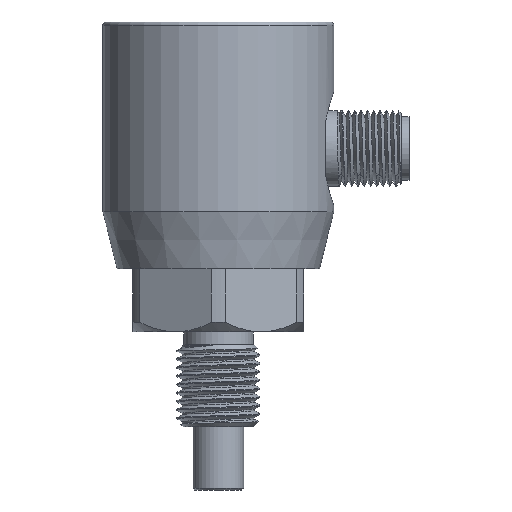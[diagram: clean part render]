
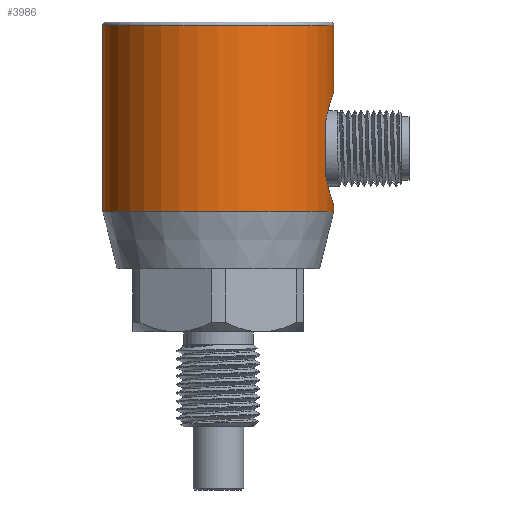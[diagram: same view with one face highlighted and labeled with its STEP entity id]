
A CAD part, left-side view. The second image highlights one B-rep face of the part: STEP entity #3986.
In plain terms, the highlighted cylindrical face has radius 18.25 mm (diameter 36.5 mm), a full revolution.
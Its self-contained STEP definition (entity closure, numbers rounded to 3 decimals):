
#43=LINE('',#18256,#1574);
#44=LINE('',#18260,#1575);
#1574=VECTOR('',#13510,1.);
#1575=VECTOR('',#13513,1.);
#3779=FACE_BOUND('',#5354,.T.);
#3780=FACE_BOUND('',#5355,.T.);
#3781=FACE_BOUND('',#5356,.T.);
#3986=ADVANCED_FACE('',(#3779,#3780,#3781),#4654,.T.);
#4654=CYLINDRICAL_SURFACE('',#12686,18.25);
#5354=EDGE_LOOP('',(#6350,#6351,#6352,#6353));
#5355=EDGE_LOOP('',(#6354));
#5356=EDGE_LOOP('',(#6355));
#6146=CIRCLE('',#12684,18.25);
#6147=CIRCLE('',#12685,18.25);
#6350=ORIENTED_EDGE('',*,*,#10921,.F.);
#6351=ORIENTED_EDGE('',*,*,#10918,.F.);
#6352=ORIENTED_EDGE('',*,*,#10915,.F.);
#6353=ORIENTED_EDGE('',*,*,#10920,.F.);
#6354=ORIENTED_EDGE('',*,*,#10922,.T.);
#6355=ORIENTED_EDGE('',*,*,#10923,.F.);
#9733=VERTEX_POINT('',#18220);
#9734=VERTEX_POINT('',#18221);
#9737=VERTEX_POINT('',#18257);
#9738=VERTEX_POINT('',#18259);
#9739=VERTEX_POINT('',#18273);
#9740=VERTEX_POINT('',#18275);
#10915=EDGE_CURVE('',#9734,#9733,#12626,.T.);
#10918=EDGE_CURVE('',#9733,#9737,#43,.T.);
#10920=EDGE_CURVE('',#9738,#9734,#44,.T.);
#10921=EDGE_CURVE('',#9737,#9738,#12628,.T.);
#10922=EDGE_CURVE('',#9739,#9739,#6146,.T.);
#10923=EDGE_CURVE('',#9740,#9740,#6147,.T.);
#12626=B_SPLINE_CURVE_WITH_KNOTS('',3,(#18222,#18223,#18224,#18225,#18226,
#18227,#18228,#18229,#18230,#18231),.UNSPECIFIED.,.F.,.F.,(4,2,2,2,4),(0.,
0.25,0.5,0.75,1.),.UNSPECIFIED.);
#12628=B_SPLINE_CURVE_WITH_KNOTS('',3,(#18262,#18263,#18264,#18265,#18266,
#18267,#18268,#18269,#18270,#18271),.UNSPECIFIED.,.F.,.F.,(4,2,2,2,4),(0.,
0.25,0.5,0.75,1.),.UNSPECIFIED.);
#12684=AXIS2_PLACEMENT_3D('',#18272,#13516,#13517);
#12685=AXIS2_PLACEMENT_3D('',#18274,#13518,#13519);
#12686=AXIS2_PLACEMENT_3D('',#18276,#13520,#13521);
#13510=DIRECTION('',(0.,0.,1.));
#13513=DIRECTION('',(0.,0.,-1.));
#13516=DIRECTION('',(0.,0.,1.));
#13517=DIRECTION('',(0.,1.,0.));
#13518=DIRECTION('',(0.,0.,1.));
#13519=DIRECTION('',(-1.,0.,0.));
#13520=DIRECTION('',(0.,0.,-1.));
#13521=DIRECTION('',(0.,-1.,0.));
#18220=CARTESIAN_POINT('',(124.765,-16.95,79.729));
#18221=CARTESIAN_POINT('',(111.235,-16.95,79.729));
#18222=CARTESIAN_POINT('',(111.235,-16.95,79.729));
#18223=CARTESIAN_POINT('',(111.849,-17.195,78.404));
#18224=CARTESIAN_POINT('',(112.75,-17.519,77.243));
#18225=CARTESIAN_POINT('',(115.065,-18.052,75.533));
#18226=CARTESIAN_POINT('',(116.496,-18.249,75.004));
#18227=CARTESIAN_POINT('',(119.471,-18.251,74.996));
#18228=CARTESIAN_POINT('',(120.9,-18.058,75.512));
#18229=CARTESIAN_POINT('',(123.25,-17.52,77.238));
#18230=CARTESIAN_POINT('',(124.15,-17.195,78.402));
#18231=CARTESIAN_POINT('',(124.765,-16.95,79.729));
#18256=CARTESIAN_POINT('',(124.765,-16.95,79.729));
#18257=CARTESIAN_POINT('',(124.765,-16.95,88.271));
#18259=CARTESIAN_POINT('',(111.235,-16.95,88.271));
#18260=CARTESIAN_POINT('',(111.235,-16.95,88.271));
#18262=CARTESIAN_POINT('',(124.765,-16.95,88.271));
#18263=CARTESIAN_POINT('',(124.151,-17.195,89.596));
#18264=CARTESIAN_POINT('',(123.25,-17.519,90.757));
#18265=CARTESIAN_POINT('',(120.935,-18.052,92.467));
#18266=CARTESIAN_POINT('',(119.504,-18.249,92.996));
#18267=CARTESIAN_POINT('',(116.529,-18.251,93.004));
#18268=CARTESIAN_POINT('',(115.1,-18.058,92.488));
#18269=CARTESIAN_POINT('',(112.75,-17.52,90.762));
#18270=CARTESIAN_POINT('',(111.85,-17.195,89.598));
#18271=CARTESIAN_POINT('',(111.235,-16.95,88.271));
#18272=CARTESIAN_POINT('',(118.,0.,74.));
#18273=CARTESIAN_POINT('',(118.,18.25,74.));
#18274=CARTESIAN_POINT('',(118.,0.,103.5));
#18275=CARTESIAN_POINT('',(99.75,0.,103.5));
#18276=CARTESIAN_POINT('',(118.,0.,103.85));
